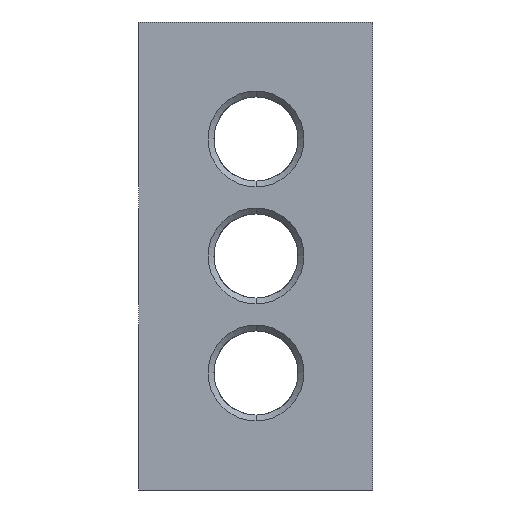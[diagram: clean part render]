
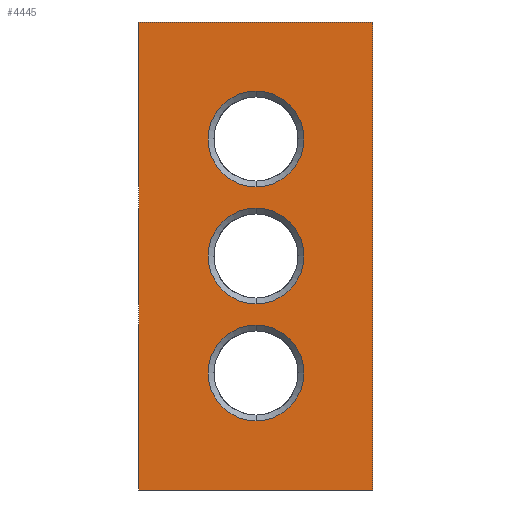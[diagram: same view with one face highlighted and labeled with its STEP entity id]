
A CAD part, left-side view. The second image highlights one B-rep face of the part: STEP entity #4445.
In plain terms, the highlighted planar face has unit normal (-1, 0, 0).
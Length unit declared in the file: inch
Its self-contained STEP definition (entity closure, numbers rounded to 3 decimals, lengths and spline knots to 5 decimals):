
#410 = VERTEX_POINT ( 'NONE', #4647 ) ;
#420 = VERTEX_POINT ( 'NONE', #4582 ) ;
#436 = VERTEX_POINT ( 'NONE', #4668 ) ;
#458 = VERTEX_POINT ( 'NONE', #4540 ) ;
#824 = DIRECTION ( 'NONE',  ( 0., 0., 1. ) ) ;
#842 = CARTESIAN_POINT ( 'NONE',  ( -1.5, 1., -1. ) ) ;
#843 = DIRECTION ( 'NONE',  ( 0., -1., 0. ) ) ;
#845 = CARTESIAN_POINT ( 'NONE',  ( -1.5, 0.5, 0.5 ) ) ;
#846 = DIRECTION ( 'NONE',  ( 1., 0., 0. ) ) ;
#847 = DIRECTION ( 'NONE',  ( 0., 0., -1. ) ) ;
#848 = CARTESIAN_POINT ( 'NONE',  ( -1.5, 0.5, 0. ) ) ;
#849 = DIRECTION ( 'NONE',  ( 1., 0., 0. ) ) ;
#850 = DIRECTION ( 'NONE',  ( 0., 0., -1. ) ) ;
#851 = CARTESIAN_POINT ( 'NONE',  ( -1.5, 1., 1. ) ) ;
#852 = CARTESIAN_POINT ( 'NONE',  ( -1.5, 0., 1. ) ) ;
#853 = CARTESIAN_POINT ( 'NONE',  ( -1.5, 0.5, -0.5 ) ) ;
#854 = DIRECTION ( 'NONE',  ( 1., 0., 0. ) ) ;
#855 = DIRECTION ( 'NONE',  ( 0., 0., -1. ) ) ;
#856 = CARTESIAN_POINT ( 'NONE',  ( -1.5, 1., 1. ) ) ;
#858 = DIRECTION ( 'NONE',  ( 0., -1., 0. ) ) ;
#859 = DIRECTION ( 'NONE',  ( 0., 0., 1. ) ) ;
#1459 = AXIS2_PLACEMENT_3D ( 'NONE', #845, #846, #847 ) ;
#1460 = AXIS2_PLACEMENT_3D ( 'NONE', #848, #849, #850 ) ;
#1461 = AXIS2_PLACEMENT_3D ( 'NONE', #853, #854, #855 ) ;
#1607 = AXIS2_PLACEMENT_3D ( 'NONE', #3673, #3674, #3675 ) ;
#1609 = AXIS2_PLACEMENT_3D ( 'NONE', #3823, #3824, #3825 ) ;
#3152 = CIRCLE ( 'NONE', #1607, 0.20469 ) ;
#3165 = CIRCLE ( 'NONE', #1609, 0.20469 ) ;
#3673 = CARTESIAN_POINT ( 'NONE',  ( -1.5, 0.5, 0. ) ) ;
#3674 = DIRECTION ( 'NONE',  ( 1., 0., 0. ) ) ;
#3675 = DIRECTION ( 'NONE',  ( 0., 0., -1. ) ) ;
#3823 = CARTESIAN_POINT ( 'NONE',  ( -1.5, 0.5, -0.5 ) ) ;
#3824 = DIRECTION ( 'NONE',  ( 1., 0., 0. ) ) ;
#3825 = DIRECTION ( 'NONE',  ( 0., 0., -1. ) ) ;
#4007 = CARTESIAN_POINT ( 'NONE',  ( -1.5, 0.5, -0.70469 ) ) ;
#4031 = CARTESIAN_POINT ( 'NONE',  ( -1.5, 0.5, -0.29531 ) ) ;
#4063 = CARTESIAN_POINT ( 'NONE',  ( -1.5, 0.5, 0.70469 ) ) ;
#4094 = CARTESIAN_POINT ( 'NONE',  ( -1.5, 0.5, 0.29531 ) ) ;
#4141 = CARTESIAN_POINT ( 'NONE',  ( -1.5, 0.5, 0.20469 ) ) ;
#4162 = CARTESIAN_POINT ( 'NONE',  ( -1.5, 0.5, -0.20469 ) ) ;
#4445 = ADVANCED_FACE ( 'NONE', ( #12660, #12664, #12661, #12659 ), #11996, .F. ) ;
#4540 = CARTESIAN_POINT ( 'NONE',  ( -1.5, 1., -1. ) ) ;
#4582 = CARTESIAN_POINT ( 'NONE',  ( -1.5, 0., -1. ) ) ;
#4647 = CARTESIAN_POINT ( 'NONE',  ( -1.5, 1., 1. ) ) ;
#4668 = CARTESIAN_POINT ( 'NONE',  ( -1.5, 0., 1. ) ) ;
#4751 = EDGE_CURVE ( 'NONE', #7189, #7249, #12680, .T. ) ;
#4879 = EDGE_CURVE ( 'NONE', #458, #420, #12761, .T. ) ;
#4881 = EDGE_CURVE ( 'NONE', #7249, #7189, #12765, .T. ) ;
#4882 = EDGE_CURVE ( 'NONE', #7362, #7366, #12767, .T. ) ;
#4883 = EDGE_CURVE ( 'NONE', #6863, #6918, #12763, .T. ) ;
#4884 = EDGE_CURVE ( 'NONE', #420, #436, #12768, .T. ) ;
#4885 = EDGE_CURVE ( 'NONE', #410, #436, #12770, .T. ) ;
#4886 = EDGE_CURVE ( 'NONE', #458, #410, #12769, .T. ) ;
#5787 = ORIENTED_EDGE ( 'NONE', *, *, #6452, .T. ) ;
#5810 = ORIENTED_EDGE ( 'NONE', *, *, #4881, .T. ) ;
#5812 = ORIENTED_EDGE ( 'NONE', *, *, #4751, .T. ) ;
#5815 = ORIENTED_EDGE ( 'NONE', *, *, #4882, .T. ) ;
#5823 = ORIENTED_EDGE ( 'NONE', *, *, #4883, .T. ) ;
#5831 = ORIENTED_EDGE ( 'NONE', *, *, #4884, .T. ) ;
#5833 = ORIENTED_EDGE ( 'NONE', *, *, #4879, .T. ) ;
#5905 = ORIENTED_EDGE ( 'NONE', *, *, #4885, .F. ) ;
#5909 = ORIENTED_EDGE ( 'NONE', *, *, #4886, .F. ) ;
#5915 = ORIENTED_EDGE ( 'NONE', *, *, #6424, .T. ) ;
#6028 = EDGE_LOOP ( 'NONE', ( #5831, #5905, #5909, #5833 ) ) ;
#6055 = EDGE_LOOP ( 'NONE', ( #5812, #5810 ) ) ;
#6079 = EDGE_LOOP ( 'NONE', ( #5787, #5823 ) ) ;
#6120 = EDGE_LOOP ( 'NONE', ( #5915, #5815 ) ) ;
#6424 = EDGE_CURVE ( 'NONE', #7366, #7362, #3152, .T. ) ;
#6452 = EDGE_CURVE ( 'NONE', #6918, #6863, #3165, .T. ) ;
#6863 = VERTEX_POINT ( 'NONE', #4007 ) ;
#6918 = VERTEX_POINT ( 'NONE', #4031 ) ;
#7189 = VERTEX_POINT ( 'NONE', #4063 ) ;
#7249 = VERTEX_POINT ( 'NONE', #4094 ) ;
#7362 = VERTEX_POINT ( 'NONE', #4162 ) ;
#7366 = VERTEX_POINT ( 'NONE', #4141 ) ;
#11263 = AXIS2_PLACEMENT_3D ( 'NONE', #12005, #12006, #12007 ) ;
#11264 = AXIS2_PLACEMENT_3D ( 'NONE', #12036, #12037, #12038 ) ;
#11996 = PLANE ( 'NONE',  #11263 ) ;
#12005 = CARTESIAN_POINT ( 'NONE',  ( -1.5, 1., 1. ) ) ;
#12006 = DIRECTION ( 'NONE',  ( 1., 0., 0. ) ) ;
#12007 = DIRECTION ( 'NONE',  ( 0., 0., -1. ) ) ;
#12036 = CARTESIAN_POINT ( 'NONE',  ( -1.5, 0.5, 0.5 ) ) ;
#12037 = DIRECTION ( 'NONE',  ( 1., 0., 0. ) ) ;
#12038 = DIRECTION ( 'NONE',  ( 0., 0., -1. ) ) ;
#12659 = FACE_OUTER_BOUND ( 'NONE', #6028, .T. ) ;
#12660 = FACE_BOUND ( 'NONE', #6055, .T. ) ;
#12661 = FACE_BOUND ( 'NONE', #6079, .T. ) ;
#12664 = FACE_BOUND ( 'NONE', #6120, .T. ) ;
#12680 = CIRCLE ( 'NONE', #11264, 0.20469 ) ;
#12761 = LINE ( 'NONE', #842, #12764 ) ;
#12763 = CIRCLE ( 'NONE', #1461, 0.20469 ) ;
#12764 = VECTOR ( 'NONE', #843, 39.37008 ) ;
#12765 = CIRCLE ( 'NONE', #1459, 0.20469 ) ;
#12767 = CIRCLE ( 'NONE', #1460, 0.20469 ) ;
#12768 = LINE ( 'NONE', #852, #12771 ) ;
#12769 = LINE ( 'NONE', #851, #12775 ) ;
#12770 = LINE ( 'NONE', #856, #12773 ) ;
#12771 = VECTOR ( 'NONE', #824, 39.37008 ) ;
#12773 = VECTOR ( 'NONE', #858, 39.37008 ) ;
#12775 = VECTOR ( 'NONE', #859, 39.37008 ) ;
